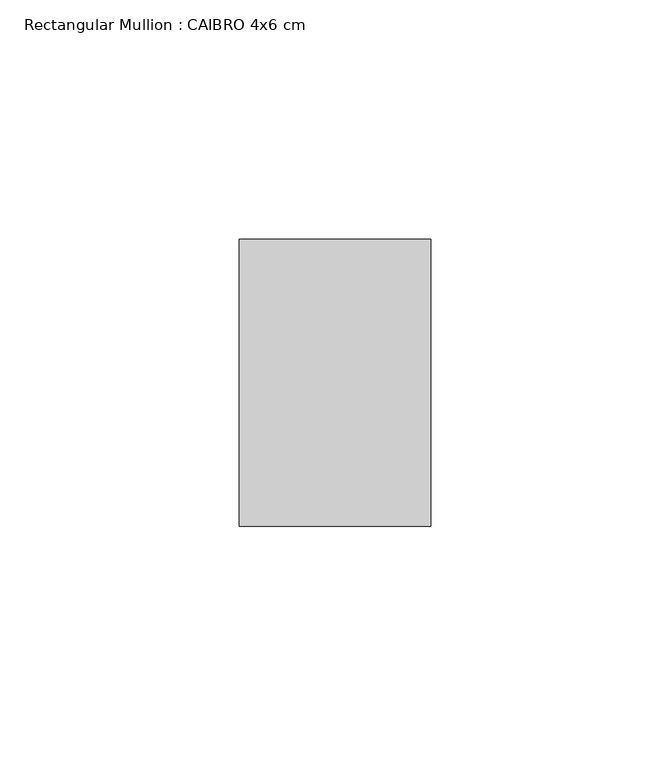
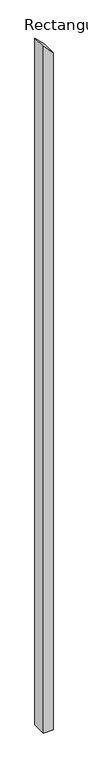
"""IFC4 building model written with IfcOpenShell, lengths in millimetres: member geometry, Rectangular Mullion : CAIBRO 4x6 cm."""

from ifc_helpers import new_model, si_unit, frame, origin, place, context, project, spatial, polyline, outline, extrude, source, transform, mapped, element, save


def rectangular_mullion_caibro_4x6_cm_25f7f393(model_context):
    return source(origin(), model_context, "Body", "SweptSolid", [
        extrude(outline(polyline([(-77.109599, 20.0), (-36.6621022, -20.0), (-3028.7652353, -20.0), (-3028.7652353, 20.0), (-77.109599, 20.0)])), frame((0.0, 0.0, 0.0), z_axis=(0.0, 1.0, 0.0), x_axis=(0.0, 0.0, 1.0)), (0.0, 0.0, 1.0), 60.0),
    ])


if __name__ == "__main__":
    model = new_model("IFC4")
    model_context = context("Model", 3, world=origin())
    ifc_project = project(units=[si_unit("LENGTHUNIT", "METRE", prefix="MILLI")], contexts=[model_context])
    site = spatial("IfcSite", under=ifc_project)
    building = spatial("IfcBuilding", under=site)
    placement = place(None, origin())
    rectangular_mullion_caibro_4x6_cm_shape = rectangular_mullion_caibro_4x6_cm_25f7f393(model_context)
    element("IfcMember", 1, ObjectType="Rectangular Mullion : CAIBRO 4x6 cm", at=placement, inside=building, context=model_context, shape_type="MappedRepresentation", body=[
        mapped(rectangular_mullion_caibro_4x6_cm_shape, transform((0.0, 0.0, 0.0), x_axis=(1.0, 0.0, 0.0), y_axis=(0.0, 1.0, 0.0), z_axis=(0.0, 0.0, 1.0))),
    ])
    save(model, "model.ifc")
